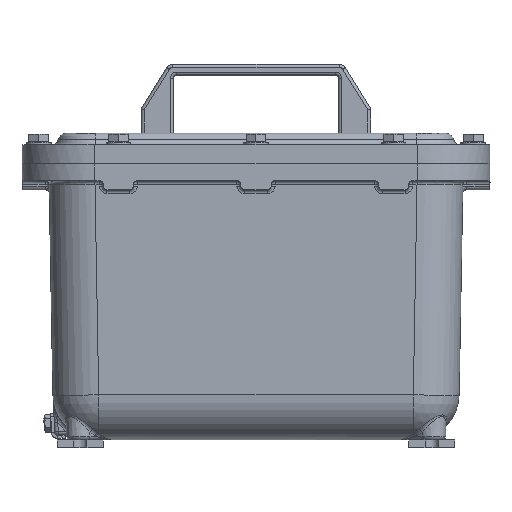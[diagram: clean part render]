
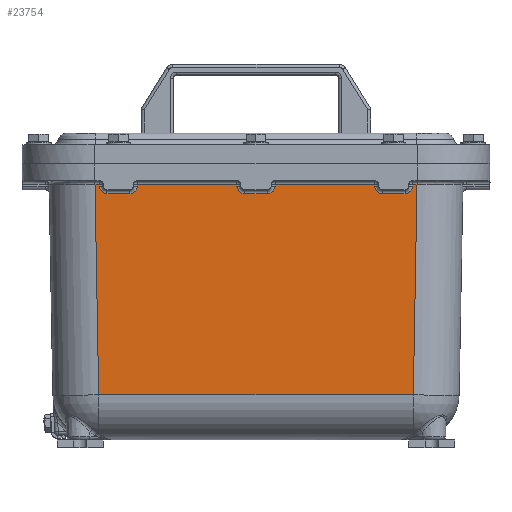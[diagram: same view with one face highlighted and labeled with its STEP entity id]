
A CAD part, left-side view. The second image highlights one B-rep face of the part: STEP entity #23754.
In plain terms, the highlighted planar face has unit normal (-1, 0, -0.018).
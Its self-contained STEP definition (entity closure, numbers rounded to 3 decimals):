
#15059=CARTESIAN_POINT('',(-85.265,-102.457,-13.456));
#15060=VERTEX_POINT('',#15059);
#15169=CARTESIAN_POINT('',(-85.16,-97.439,-19.456));
#15170=VERTEX_POINT('',#15169);
#15171=CARTESIAN_POINT('',(-85.246,-102.438,-14.544));
#15172=VERTEX_POINT('',#15171);
#15173=CARTESIAN_POINT('',(-85.248,-97.439,-14.456));
#15174=DIRECTION('',(-1.,0.,-0.017));
#15175=DIRECTION('',(0.017,0.,-1.));
#15176=AXIS2_PLACEMENT_3D('',#15173,#15174,#15175);
#15177=ELLIPSE('',#15176,5.001,5.);
#15178=EDGE_CURVE('',#15170,#15172,#15177,.T.);
#15214=CARTESIAN_POINT('',(-85.246,-102.438,-14.544));
#15215=DIRECTION('',(-0.017,-0.017,1.));
#15216=VECTOR('',#15215,1.088);
#15217=LINE('',#15214,#15216);
#15218=EDGE_CURVE('',#15172,#15060,#15217,.T.);
#15340=CARTESIAN_POINT('',(-85.246,-77.562,-14.544));
#15341=VERTEX_POINT('',#15340);
#15349=CARTESIAN_POINT('',(-85.16,-82.561,-19.456));
#15350=VERTEX_POINT('',#15349);
#15351=CARTESIAN_POINT('',(-85.248,-82.561,-14.456));
#15352=DIRECTION('',(-1.,0.,-0.017));
#15353=DIRECTION('',(0.017,0.,-1.));
#15354=AXIS2_PLACEMENT_3D('',#15351,#15352,#15353);
#15355=ELLIPSE('',#15354,5.001,5.);
#15356=EDGE_CURVE('',#15341,#15350,#15355,.T.);
#15451=CARTESIAN_POINT('',(-85.265,-77.543,-13.456));
#15452=VERTEX_POINT('',#15451);
#15544=CARTESIAN_POINT('',(-85.265,-12.457,-13.456));
#15545=VERTEX_POINT('',#15544);
#15654=CARTESIAN_POINT('',(-85.16,-7.439,-19.456));
#15655=VERTEX_POINT('',#15654);
#15656=CARTESIAN_POINT('',(-85.246,-12.438,-14.544));
#15657=VERTEX_POINT('',#15656);
#15658=CARTESIAN_POINT('',(-85.248,-7.439,-14.456));
#15659=DIRECTION('',(-1.,0.0,-0.017));
#15660=DIRECTION('',(0.017,0.,-1.));
#15661=AXIS2_PLACEMENT_3D('',#15658,#15659,#15660);
#15662=ELLIPSE('',#15661,5.001,5.);
#15663=EDGE_CURVE('',#15655,#15657,#15662,.T.);
#15699=CARTESIAN_POINT('',(-85.246,-12.438,-14.544));
#15700=DIRECTION('',(-0.017,-0.017,1.));
#15701=VECTOR('',#15700,1.088);
#15702=LINE('',#15699,#15701);
#15703=EDGE_CURVE('',#15657,#15545,#15702,.T.);
#15825=CARTESIAN_POINT('',(-85.246,12.438,-14.544));
#15826=VERTEX_POINT('',#15825);
#15834=CARTESIAN_POINT('',(-85.16,7.439,-19.456));
#15835=VERTEX_POINT('',#15834);
#15836=CARTESIAN_POINT('',(-85.248,7.439,-14.456));
#15837=DIRECTION('',(-1.,0.0,-0.017));
#15838=DIRECTION('',(0.017,0.,-1.));
#15839=AXIS2_PLACEMENT_3D('',#15836,#15837,#15838);
#15840=ELLIPSE('',#15839,5.001,5.);
#15841=EDGE_CURVE('',#15826,#15835,#15840,.T.);
#15936=CARTESIAN_POINT('',(-85.265,12.457,-13.456));
#15937=VERTEX_POINT('',#15936);
#16029=CARTESIAN_POINT('',(-85.265,77.543,-13.456));
#16030=VERTEX_POINT('',#16029);
#16139=CARTESIAN_POINT('',(-85.16,82.561,-19.456));
#16140=VERTEX_POINT('',#16139);
#16141=CARTESIAN_POINT('',(-85.246,77.562,-14.544));
#16142=VERTEX_POINT('',#16141);
#16143=CARTESIAN_POINT('',(-85.248,82.561,-14.456));
#16144=DIRECTION('',(-1.,0.,-0.017));
#16145=DIRECTION('',(0.017,0.,-1.));
#16146=AXIS2_PLACEMENT_3D('',#16143,#16144,#16145);
#16147=ELLIPSE('',#16146,5.001,5.);
#16148=EDGE_CURVE('',#16140,#16142,#16147,.T.);
#16184=CARTESIAN_POINT('',(-85.246,77.562,-14.544));
#16185=DIRECTION('',(-0.017,-0.017,1.));
#16186=VECTOR('',#16185,1.088);
#16187=LINE('',#16184,#16186);
#16188=EDGE_CURVE('',#16142,#16030,#16187,.T.);
#16310=CARTESIAN_POINT('',(-85.246,102.438,-14.544));
#16311=VERTEX_POINT('',#16310);
#16319=CARTESIAN_POINT('',(-85.16,97.439,-19.456));
#16320=VERTEX_POINT('',#16319);
#16321=CARTESIAN_POINT('',(-85.248,97.439,-14.456));
#16322=DIRECTION('',(-1.,0.,-0.017));
#16323=DIRECTION('',(0.017,0.,-1.));
#16324=AXIS2_PLACEMENT_3D('',#16321,#16322,#16323);
#16325=ELLIPSE('',#16324,5.001,5.);
#16326=EDGE_CURVE('',#16311,#16320,#16325,.T.);
#16421=CARTESIAN_POINT('',(-85.265,102.457,-13.456));
#16422=VERTEX_POINT('',#16421);
#17971=CARTESIAN_POINT('',(-85.265,105.27,-13.456));
#17972=VERTEX_POINT('',#17971);
#17980=CARTESIAN_POINT('',(-85.265,105.27,-13.456));
#17981=DIRECTION('',(0.0,-1.0,0.0));
#17982=VECTOR('',#17981,2.813);
#17983=LINE('',#17980,#17982);
#17984=EDGE_CURVE('',#17972,#16422,#17983,.T.);
#18089=CARTESIAN_POINT('',(-85.265,102.457,-13.456));
#18090=DIRECTION('',(0.017,-0.017,-1.));
#18091=VECTOR('',#18090,1.088);
#18092=LINE('',#18089,#18091);
#18093=EDGE_CURVE('',#16422,#16311,#18092,.T.);
#18133=CARTESIAN_POINT('',(-85.16,97.439,-19.456));
#18134=DIRECTION('',(0.0,-1.0,0.0));
#18135=VECTOR('',#18134,14.877);
#18136=LINE('',#18133,#18135);
#18137=EDGE_CURVE('',#16320,#16140,#18136,.T.);
#18194=CARTESIAN_POINT('',(-85.265,77.543,-13.456));
#18195=DIRECTION('',(0.0,-1.0,0.0));
#18196=VECTOR('',#18195,65.087);
#18197=LINE('',#18194,#18196);
#18198=EDGE_CURVE('',#16030,#15937,#18197,.T.);
#18216=CARTESIAN_POINT('',(-85.265,12.457,-13.456));
#18217=DIRECTION('',(0.017,-0.017,-1.));
#18218=VECTOR('',#18217,1.088);
#18219=LINE('',#18216,#18218);
#18220=EDGE_CURVE('',#15937,#15826,#18219,.T.);
#18260=CARTESIAN_POINT('',(-85.16,7.439,-19.456));
#18261=DIRECTION('',(0.0,-1.0,0.0));
#18262=VECTOR('',#18261,14.877);
#18263=LINE('',#18260,#18262);
#18264=EDGE_CURVE('',#15835,#15655,#18263,.T.);
#18321=CARTESIAN_POINT('',(-85.265,-12.457,-13.456));
#18322=DIRECTION('',(0.0,-1.0,0.0));
#18323=VECTOR('',#18322,65.087);
#18324=LINE('',#18321,#18323);
#18325=EDGE_CURVE('',#15545,#15452,#18324,.T.);
#18343=CARTESIAN_POINT('',(-85.265,-77.543,-13.456));
#18344=DIRECTION('',(0.017,-0.017,-1.));
#18345=VECTOR('',#18344,1.088);
#18346=LINE('',#18343,#18345);
#18347=EDGE_CURVE('',#15452,#15341,#18346,.T.);
#18387=CARTESIAN_POINT('',(-85.16,-82.561,-19.456));
#18388=DIRECTION('',(0.0,-1.0,0.0));
#18389=VECTOR('',#18388,14.877);
#18390=LINE('',#18387,#18389);
#18391=EDGE_CURVE('',#15350,#15170,#18390,.T.);
#18512=CARTESIAN_POINT('',(-85.265,-105.27,-13.456));
#18513=VERTEX_POINT('',#18512);
#18545=CARTESIAN_POINT('',(-85.265,-102.457,-13.456));
#18546=DIRECTION('',(0.0,-1.0,0.0));
#18547=VECTOR('',#18546,2.813);
#18548=LINE('',#18545,#18547);
#18549=EDGE_CURVE('',#15060,#18513,#18548,.T.);
#23645=CARTESIAN_POINT('',(-82.864,102.868,-151.024));
#23646=VERTEX_POINT('',#23645);
#23683=CARTESIAN_POINT('',(-82.864,-102.868,-151.024));
#23684=VERTEX_POINT('',#23683);
#23692=CARTESIAN_POINT('',(-82.864,-102.868,-151.024));
#23693=DIRECTION('',(0.0,1.0,0.0));
#23694=VECTOR('',#23693,205.737);
#23695=LINE('',#23692,#23694);
#23696=EDGE_CURVE('',#23684,#23646,#23695,.T.);
#23715=CARTESIAN_POINT('',(-85.5,135.5,0.0));
#23716=DIRECTION('',(-1.,0.0,-0.017));
#23717=DIRECTION('',(0.0,1.0,0.0));
#23718=AXIS2_PLACEMENT_3D('',#23715,#23716,#23717);
#23719=PLANE('',#23718);
#23720=ORIENTED_EDGE('',*,*,#17984,.F.);
#23721=CARTESIAN_POINT('',(-82.864,102.868,-151.024));
#23722=DIRECTION('',(-0.017,0.017,1.));
#23723=VECTOR('',#23722,137.609);
#23724=LINE('',#23721,#23723);
#23725=EDGE_CURVE('',#23646,#17972,#23724,.T.);
#23726=ORIENTED_EDGE('',*,*,#23725,.F.);
#23727=ORIENTED_EDGE('',*,*,#23696,.F.);
#23728=CARTESIAN_POINT('',(-85.265,-105.27,-13.456));
#23729=DIRECTION('',(0.017,0.017,-1.));
#23730=VECTOR('',#23729,137.609);
#23731=LINE('',#23728,#23730);
#23732=EDGE_CURVE('',#18513,#23684,#23731,.T.);
#23733=ORIENTED_EDGE('',*,*,#23732,.F.);
#23734=ORIENTED_EDGE('',*,*,#18549,.F.);
#23735=ORIENTED_EDGE('',*,*,#15218,.F.);
#23736=ORIENTED_EDGE('',*,*,#15178,.F.);
#23737=ORIENTED_EDGE('',*,*,#18391,.F.);
#23738=ORIENTED_EDGE('',*,*,#15356,.F.);
#23739=ORIENTED_EDGE('',*,*,#18347,.F.);
#23740=ORIENTED_EDGE('',*,*,#18325,.F.);
#23741=ORIENTED_EDGE('',*,*,#15703,.F.);
#23742=ORIENTED_EDGE('',*,*,#15663,.F.);
#23743=ORIENTED_EDGE('',*,*,#18264,.F.);
#23744=ORIENTED_EDGE('',*,*,#15841,.F.);
#23745=ORIENTED_EDGE('',*,*,#18220,.F.);
#23746=ORIENTED_EDGE('',*,*,#18198,.F.);
#23747=ORIENTED_EDGE('',*,*,#16188,.F.);
#23748=ORIENTED_EDGE('',*,*,#16148,.F.);
#23749=ORIENTED_EDGE('',*,*,#18137,.F.);
#23750=ORIENTED_EDGE('',*,*,#16326,.F.);
#23751=ORIENTED_EDGE('',*,*,#18093,.F.);
#23752=EDGE_LOOP('',(#23720,#23726,#23727,#23733,#23734,#23735,#23736,#23737,#23738,#23739,#23740,#23741,#23742,#23743,#23744,#23745,#23746,#23747,#23748,#23749,#23750,#23751));
#23753=FACE_OUTER_BOUND('',#23752,.T.);
#23754=ADVANCED_FACE('',(#23753),#23719,.T.);
